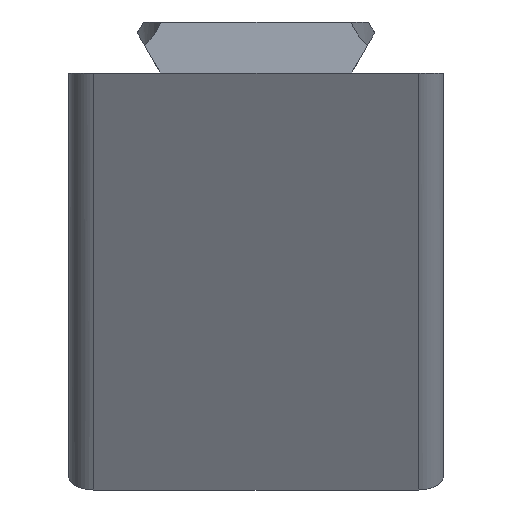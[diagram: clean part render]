
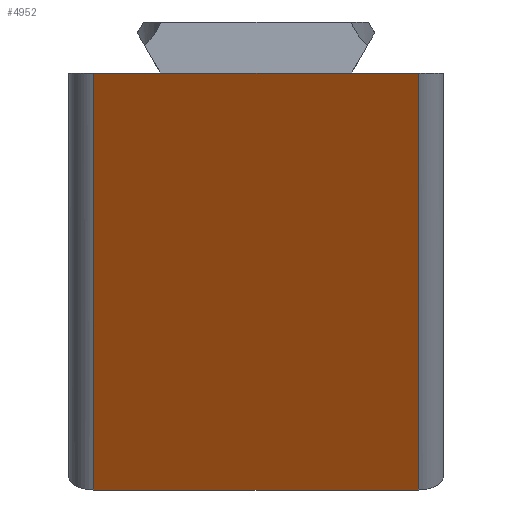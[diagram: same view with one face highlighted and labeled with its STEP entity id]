
A CAD part, left-side view. The second image highlights one B-rep face of the part: STEP entity #4952.
In plain terms, the highlighted planar face has unit normal (-0.848, 0, -0.53).
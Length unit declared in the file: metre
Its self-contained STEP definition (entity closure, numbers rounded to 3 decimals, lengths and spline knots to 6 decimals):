
#768=ORIENTED_EDGE('',*,*,#2018,.T.);
#769=ORIENTED_EDGE('',*,*,#2255,.T.);
#770=ORIENTED_EDGE('',*,*,#1971,.F.);
#771=ORIENTED_EDGE('',*,*,#2256,.T.);
#772=ORIENTED_EDGE('',*,*,#2036,.T.);
#773=ORIENTED_EDGE('',*,*,#2250,.T.);
#1971=EDGE_CURVE('',#2731,#2732,#3237,.T.);
#2018=EDGE_CURVE('',#2779,#2778,#3261,.T.);
#2036=EDGE_CURVE('',#2797,#2796,#3272,.T.);
#2250=EDGE_CURVE('',#2796,#2779,#3368,.T.);
#2255=EDGE_CURVE('',#2778,#2732,#3369,.T.);
#2256=EDGE_CURVE('',#2731,#2797,#3370,.F.);
#2731=VERTEX_POINT('',#6693);
#2732=VERTEX_POINT('',#6695);
#2778=VERTEX_POINT('',#6791);
#2779=VERTEX_POINT('',#6793);
#2796=VERTEX_POINT('',#6827);
#2797=VERTEX_POINT('',#6829);
#3237=LINE('',#6694,#3706);
#3261=LINE('',#6792,#3730);
#3272=LINE('',#6828,#3741);
#3368=LINE('',#7403,#3837);
#3369=LINE('',#7414,#3838);
#3370=LINE('',#7415,#3839);
#3706=VECTOR('',#5565,1.);
#3730=VECTOR('',#5643,1.);
#3741=VECTOR('',#5668,1.);
#3837=VECTOR('',#5876,1.);
#3838=VECTOR('',#5893,1.);
#3839=VECTOR('',#5894,1.);
#4214=EDGE_LOOP('',(#768,#769,#770,#771,#772,#773));
#4525=FACE_BOUND('',#4214,.T.);
#4810=PLANE('',#5322);
#4952=ADVANCED_FACE('',(#4525),#4810,.F.);
#5322=AXIS2_PLACEMENT_3D('',#7413,#5891,#5892);
#5565=DIRECTION('',(0.,1.,0.));
#5643=DIRECTION('',(0.,1.,0.));
#5668=DIRECTION('',(0.,1.,0.));
#5876=DIRECTION('',(0.,1.,0.));
#5891=DIRECTION('',(0.848,0.,0.53));
#5892=DIRECTION('',(0.53,0.,-0.848));
#5893=DIRECTION('',(0.53,0.,-0.848));
#5894=DIRECTION('',(0.53,0.,-0.848));
#6693=CARTESIAN_POINT('',(0.020862,-0.013,-0.033386));
#6694=CARTESIAN_POINT('',(0.020862,-0.015,-0.033386));
#6695=CARTESIAN_POINT('',(0.020862,0.013,-0.033386));
#6791=CARTESIAN_POINT('',(0.,0.013,0.));
#6792=CARTESIAN_POINT('',(0.,-0.015,0.));
#6793=CARTESIAN_POINT('',(0.,0.007695,0.));
#6827=CARTESIAN_POINT('',(0.,-0.007695,0.));
#6828=CARTESIAN_POINT('',(0.,-0.015,0.));
#6829=CARTESIAN_POINT('',(0.,-0.013,0.));
#7403=CARTESIAN_POINT('',(0.,0.,0.));
#7413=CARTESIAN_POINT('',(0.010431,-0.015,-0.016693));
#7414=CARTESIAN_POINT('',(0.010431,0.013,-0.016693));
#7415=CARTESIAN_POINT('',(0.,-0.013,0.));
